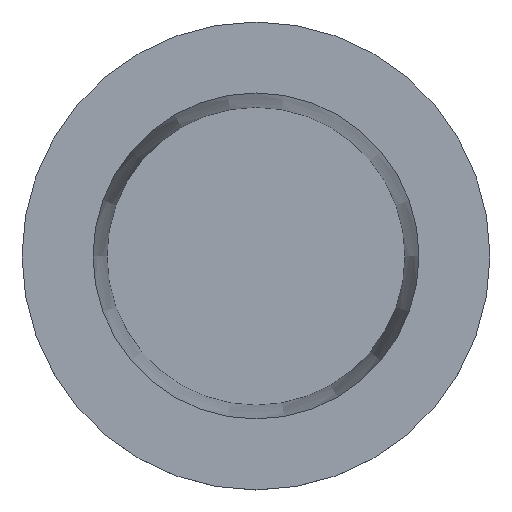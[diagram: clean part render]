
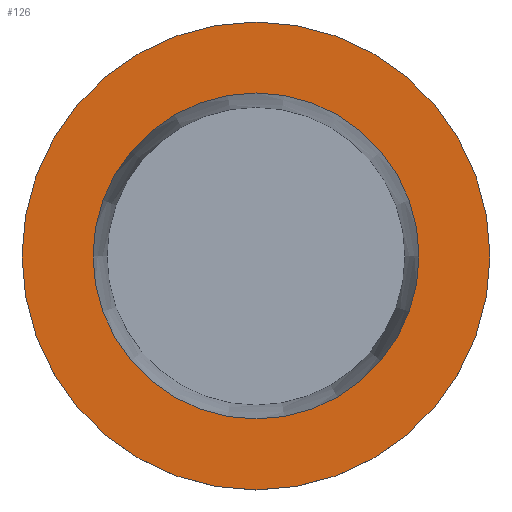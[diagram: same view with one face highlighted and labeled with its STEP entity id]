
A CAD part, top view. The second image highlights one B-rep face of the part: STEP entity #126.
In plain terms, the highlighted planar face has unit normal (0, 0, 1).
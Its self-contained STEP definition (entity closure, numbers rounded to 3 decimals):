
#87=CARTESIAN_POINT('',(20.5,0.,16.));
#88=VERTEX_POINT('',#87);
#95=CARTESIAN_POINT('',(0.,0.,16.));
#96=DIRECTION('',(1.,-0.,-0.));
#97=DIRECTION('',(0.,-0.,1.));
#98=AXIS2_PLACEMENT_3D('',#95,#97,#96);
#99=CIRCLE('',#98,20.5);
#100=EDGE_CURVE('',#88,#88,#99,.T.);
#107=CARTESIAN_POINT('',(0.,0.,16.));
#108=DIRECTION('',(1.,0.,0.));
#109=DIRECTION('',(0.,0.,-1.));
#110=AXIS2_PLACEMENT_3D('',#107,#109,#108);
#111=PLANE('',#110);
#112=ORIENTED_EDGE('',*,*,#100,.F.);
#113=EDGE_LOOP('',(#112));
#114=FACE_OUTER_BOUND('',#113,.F.);
#115=CARTESIAN_POINT('',(14.28,0.,16.));
#116=VERTEX_POINT('',#115);
#117=CARTESIAN_POINT('',(0.,0.,16.));
#118=DIRECTION('',(1.,-0.,-0.));
#119=DIRECTION('',(0.,-0.,1.));
#120=AXIS2_PLACEMENT_3D('',#117,#119,#118);
#121=CIRCLE('',#120,14.28);
#122=EDGE_CURVE('',#116,#116,#121,.T.);
#123=ORIENTED_EDGE('E8',*,*,#122,.T.);
#124=EDGE_LOOP('',(#123));
#125=FACE_BOUND('',#124,.F.);
#126=ADVANCED_FACE('F5',(#114,#125),#111,.F.);
